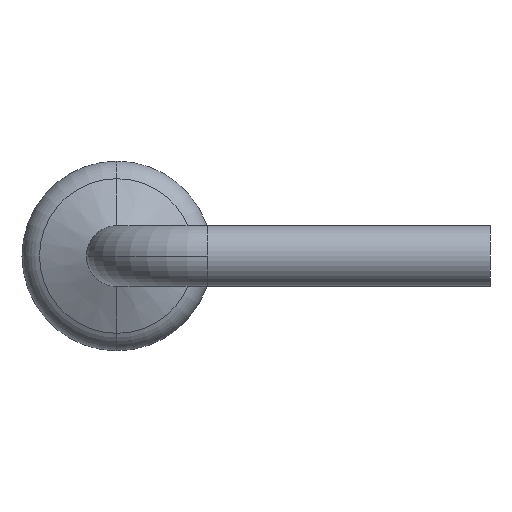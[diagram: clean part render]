
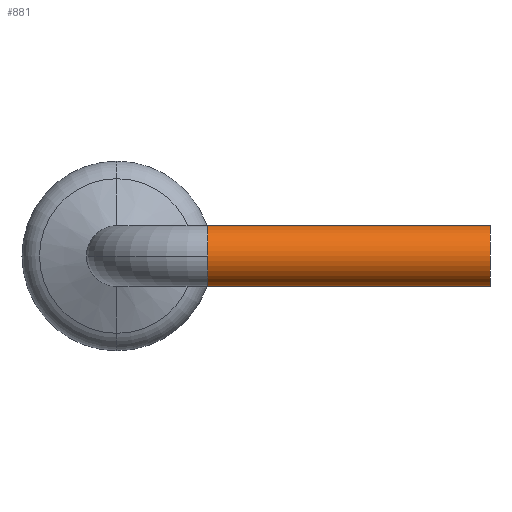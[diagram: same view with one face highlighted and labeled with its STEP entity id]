
A CAD part, left-side view. The second image highlights one B-rep face of the part: STEP entity #881.
In plain terms, the highlighted cylindrical face has radius 0.24 mm (diameter 0.48 mm), a partial arc.
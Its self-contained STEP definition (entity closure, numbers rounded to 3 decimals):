
#30 = DIRECTION ( 'NONE',  ( 0., -1., 0. ) ) ;
#35 = DIRECTION ( 'NONE',  ( 0., 0., -1. ) ) ;
#98 = DIRECTION ( 'NONE',  ( 0., 0., 1. ) ) ;
#99 = AXIS2_PLACEMENT_3D ( 'NONE', #101, #103, #98 ) ;
#101 = CARTESIAN_POINT ( 'NONE',  ( -2.5, -2.2, 0. ) ) ;
#102 = CIRCLE ( 'NONE', #99, 0.24 ) ;
#103 = DIRECTION ( 'NONE',  ( 0., 1., 0. ) ) ;
#135 = FACE_OUTER_BOUND ( 'NONE', #882, .T. ) ;
#141 = CARTESIAN_POINT ( 'NONE',  ( -2.5, 0.03, 0. ) ) ;
#142 = AXIS2_PLACEMENT_3D ( 'NONE', #141, #30, #35 ) ;
#143 = CYLINDRICAL_SURFACE ( 'NONE', #142, 0.24 ) ;
#155 = DIRECTION ( 'NONE',  ( 0., 0., 1. ) ) ;
#158 = CIRCLE ( 'NONE', #171, 0.24 ) ;
#165 = DIRECTION ( 'NONE',  ( 0., 1., 0. ) ) ;
#170 = CARTESIAN_POINT ( 'NONE',  ( -2.5, 0.03, 0. ) ) ;
#171 = AXIS2_PLACEMENT_3D ( 'NONE', #170, #165, #155 ) ;
#417 = CARTESIAN_POINT ( 'NONE',  ( -2.5, -2.2, 0.24 ) ) ;
#436 = DIRECTION ( 'NONE',  ( 0., -1., 0. ) ) ;
#437 = VECTOR ( 'NONE', #436, 1000. ) ;
#438 = CARTESIAN_POINT ( 'NONE',  ( -2.5, 0.03, -0.24 ) ) ;
#439 = LINE ( 'NONE', #438, #437 ) ;
#440 = CARTESIAN_POINT ( 'NONE',  ( -2.5, -2.2, -0.24 ) ) ;
#504 = CARTESIAN_POINT ( 'NONE',  ( -2.5, 0.03, 0.24 ) ) ;
#579 = CARTESIAN_POINT ( 'NONE',  ( -2.74, 0.03, 0. ) ) ;
#580 = CARTESIAN_POINT ( 'NONE',  ( -2.5, 0.03, -0.24 ) ) ;
#787 = DIRECTION ( 'NONE',  ( 0., 0., 1. ) ) ;
#788 = DIRECTION ( 'NONE',  ( 0., 1., 0. ) ) ;
#789 = CARTESIAN_POINT ( 'NONE',  ( -2.5, 0.03, 0. ) ) ;
#790 = AXIS2_PLACEMENT_3D ( 'NONE', #789, #788, #787 ) ;
#791 = CIRCLE ( 'NONE', #790, 0.24 ) ;
#792 = DIRECTION ( 'NONE',  ( 0., -1., 0. ) ) ;
#793 = VECTOR ( 'NONE', #792, 1000. ) ;
#794 = CARTESIAN_POINT ( 'NONE',  ( -2.5, 0.03, 0.24 ) ) ;
#795 = LINE ( 'NONE', #794, #793 ) ;
#823 = EDGE_CURVE ( 'NONE', #1085, #1075, #102, .T. ) ;
#881 = ADVANCED_FACE ( 'NONE', ( #135 ), #143, .T. ) ;
#882 = EDGE_LOOP ( 'NONE', ( #883, #884, #886, #887, #888 ) ) ;
#883 = ORIENTED_EDGE ( 'NONE', *, *, #1151, .F. ) ;
#884 = ORIENTED_EDGE ( 'NONE', *, *, #885, .F. ) ;
#885 = EDGE_CURVE ( 'NONE', #1100, #1077, #158, .T. ) ;
#886 = ORIENTED_EDGE ( 'NONE', *, *, #1154, .F. ) ;
#887 = ORIENTED_EDGE ( 'NONE', *, *, #1086, .T. ) ;
#888 = ORIENTED_EDGE ( 'NONE', *, *, #823, .T. ) ;
#1075 = VERTEX_POINT ( 'NONE', #417 ) ;
#1077 = VERTEX_POINT ( 'NONE', #504 ) ;
#1085 = VERTEX_POINT ( 'NONE', #440 ) ;
#1086 = EDGE_CURVE ( 'NONE', #1099, #1085, #439, .T. ) ;
#1099 = VERTEX_POINT ( 'NONE', #580 ) ;
#1100 = VERTEX_POINT ( 'NONE', #579 ) ;
#1151 = EDGE_CURVE ( 'NONE', #1077, #1075, #795, .T. ) ;
#1154 = EDGE_CURVE ( 'NONE', #1099, #1100, #791, .T. ) ;
